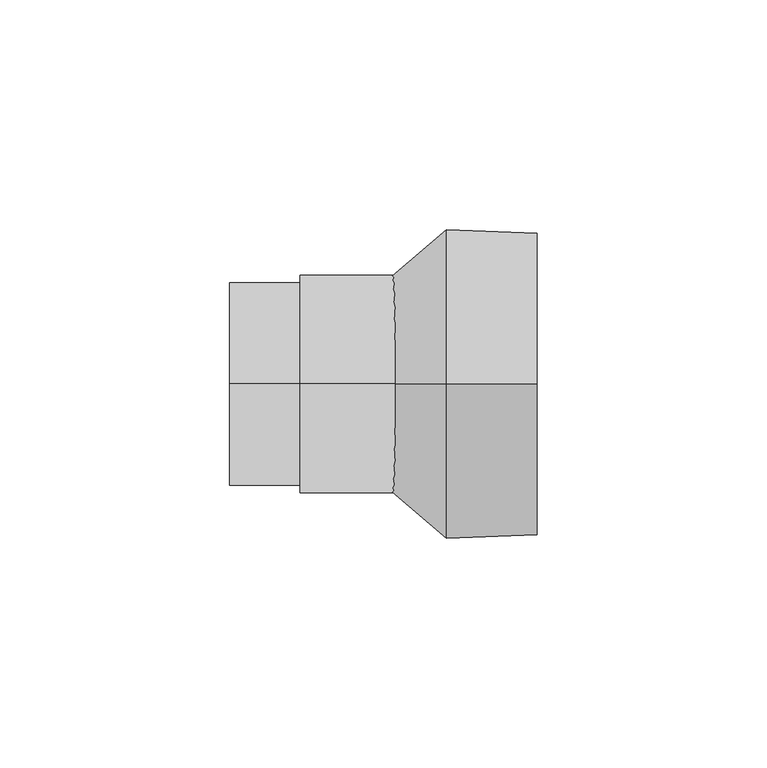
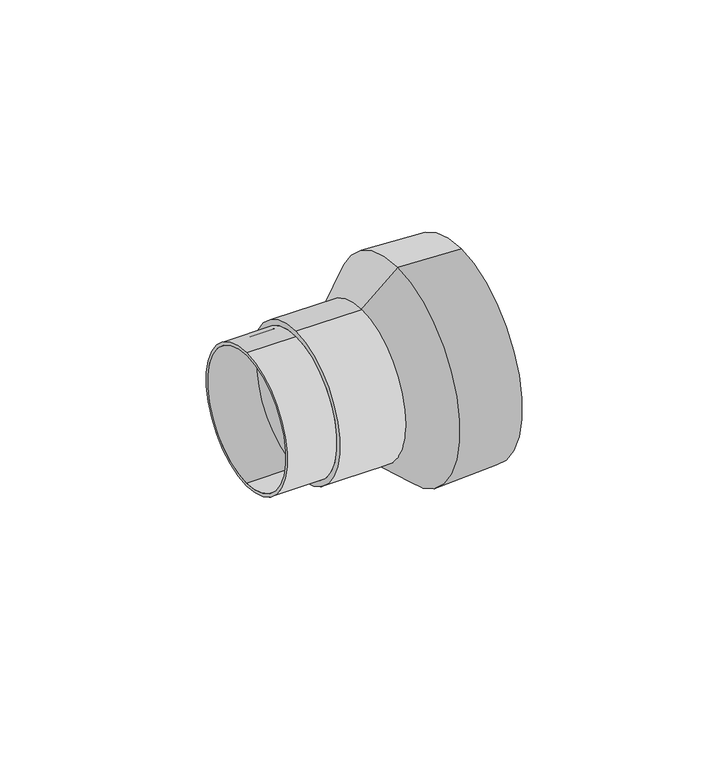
"""IFC4 building model written with IfcOpenShell, lengths in millimetres: valve geometry, Superdrain_Mini-Vent : Superdrain_ Mini-Vent DN 50."""

from ifc_helpers import new_model, si_unit, frame, origin, place, context, project, spatial, polyline, circle_curve, source, transform, mapped, element, save
from ifc_brep_helpers import plane_surface, cylinder_surface, revolved_surface, advanced_brep


def valve_471c44af(model_context):
    return source(origin(), model_context, "Body", "AdvancedBrep", [
        advanced_brep(
        [(36.0, 0.0, 23.7), (36.0, 0.0, -23.7), (15.4, 0.0, 23.7), (15.4, 0.0, -23.7), (15.4, 0.0, 22.0), (15.4, 0.0, -22.0), (15.4, 0.0, -21.0), (15.4, 0.0, 21.0), (0.0, 0.0, 22.0), (0.0, 0.0, -22.0), (0.0, 0.0, 21.0), (0.0, 0.0, -21.0)],
        [
            (0, 1, circle_curve(frame((36.0, 0.0, 0.0), z_axis=(1.0, 0.0, 0.0), x_axis=(0.0, 0.0, -1.0)), 23.7)),
            (1, 0, circle_curve(frame((36.0, 0.0, 0.0), z_axis=(1.0, 0.0, 0.0), x_axis=(0.0, 0.0, -1.0)), 23.7)),
            (2, 3, circle_curve(frame((15.4, 0.0, 0.0), z_axis=(-1.0, 0.0, 0.0), x_axis=(0.0, 0.0, -1.0)), 23.7)),
            (3, 2, circle_curve(frame((15.4, 0.0, 0.0), z_axis=(-1.0, 0.0, 0.0), x_axis=(0.0, 0.0, -1.0)), 23.7)),
            (4, 5, circle_curve(frame((15.4, 0.0, 0.0), z_axis=(1.0, 0.0, 0.0), x_axis=(0.0, 0.0, -1.0)), 22.0)),
            (5, 4, circle_curve(frame((15.4, 0.0, 0.0), z_axis=(1.0, 0.0, 0.0), x_axis=(0.0, 0.0, -1.0)), 22.0)),
            (6, 7, circle_curve(frame((15.4, 0.0, 0.0), z_axis=(-1.0, 0.0, 0.0), x_axis=(0.0, 0.0, -1.0)), 21.0)),
            (7, 6, circle_curve(frame((15.4, 0.0, 0.0), z_axis=(-1.0, 0.0, 0.0), x_axis=(0.0, 0.0, -1.0)), 21.0)),
            (0, 2),
            (3, 1),
            (8, 9, circle_curve(frame((0.0, 0.0, 0.0), z_axis=(-1.0, 0.0, 0.0), x_axis=(0.0, 0.0, -1.0)), 22.0)),
            (9, 8, circle_curve(frame((0.0, 0.0, 0.0), z_axis=(-1.0, 0.0, 0.0), x_axis=(0.0, 0.0, -1.0)), 22.0)),
            (10, 11, circle_curve(frame((0.0, 0.0, 0.0), z_axis=(1.0, 0.0, 0.0), x_axis=(0.0, 0.0, -1.0)), 21.0)),
            (11, 10, circle_curve(frame((0.0, 0.0, 0.0), z_axis=(1.0, 0.0, 0.0), x_axis=(0.0, 0.0, -1.0)), 21.0)),
            (9, 5),
            (4, 8),
            (10, 7),
            (6, 11),
        ],
        [
            plane_surface(frame((36.0, 0.0, -23.7), z_axis=(1.0, 0.0, 0.0), x_axis=(0.0, 1.0, 0.0))),
            plane_surface(frame((15.4, 0.0, -23.7), z_axis=(-1.0, 0.0, 0.0), x_axis=(0.0, -1.0, 0.0))),
            cylinder_surface(frame((15.4, 0.0, 0.0), z_axis=(1.0, 0.0, 0.0), x_axis=(0.0, 0.0, -1.0)), 23.7),
            plane_surface(frame((0.0, 0.0, -22.0), z_axis=(-1.0, 0.0, 0.0), x_axis=(0.0, -1.0, 0.0))),
            cylinder_surface(frame((0.0, 0.0, 0.0), z_axis=(1.0, 0.0, 0.0), x_axis=(0.0, 0.0, -1.0)), 22.0),
            revolved_surface(polyline([(0.0, 0.0, -21.0), (15.4, 0.0, -21.0)]), (0.0, 0.0, 0.0), (-1.0, 0.0, 0.0)),
        ],
        [
            (0, [[1, 2]]),
            (1, [[3, 4], [5, 6]]),
            (1, [[7, 8]]),
            (2, [[-1, 9, -4, 10]]),
            (2, [[-2, -10, -3, -9]]),
            (3, [[11, 12], [13, 14]]),
            (4, [[-12, 15, -5, 16]]),
            (4, [[-11, -16, -6, -15]]),
            (5, [[-13, 17, -7, 18]]),
            (5, [[-14, -18, -8, -17]]),
        ],
    ),
        advanced_brep(
        [(47.226201, 0.0, -33.7739385), (47.226201, 0.0, 33.7739385), (66.9870727, 0.0, 33.0112976), (66.9870727, 0.0, -33.0112976), (66.9870727, 0.0, 0.0), (35.4, 0.0, -23.5826524), (35.4, 0.0, 23.5826524), (35.4, 0.0, 0.0)],
        [
            (0, 1, circle_curve(frame((47.226201, 0.0, 0.0), z_axis=(1.0, 0.0, 0.0), x_axis=(0.0, 0.0, 1.0)), 33.7739385)),
            (1, 2),
            (2, 3, circle_curve(frame((66.9870727, 0.0, 0.0), z_axis=(-1.0, 0.0, 0.0), x_axis=(0.0, 0.0, 1.0)), 33.0112976)),
            (3, 0),
            (1, 0, circle_curve(frame((47.226201, 0.0, 0.0), z_axis=(1.0, 0.0, 0.0), x_axis=(0.0, 0.0, 1.0)), 33.7739385)),
            (3, 2, circle_curve(frame((66.9870727, 0.0, 0.0), z_axis=(-1.0, 0.0, 0.0), x_axis=(0.0, 0.0, 1.0)), 33.0112976)),
            (2, 4),
            (4, 3),
            (5, 6, circle_curve(frame((35.4, 0.0, 0.0), z_axis=(1.0, 0.0, 0.0), x_axis=(0.0, 0.0, 1.0)), 23.5826524)),
            (6, 1),
            (0, 5),
            (6, 5, circle_curve(frame((35.4, 0.0, 0.0), z_axis=(1.0, 0.0, 0.0), x_axis=(0.0, 0.0, 1.0)), 23.5826524)),
            (7, 6),
            (5, 7),
        ],
        [
            revolved_surface(polyline([(66.9870727, 0.0, 33.0112976), (47.226201, 0.0, 33.7739385)]), (68.8087367, 0.0, 0.0), (-1.0, 0.0, 0.0)),
            plane_surface(frame((66.9870727, 0.0, 0.0), z_axis=(1.0, 0.0, 0.0), x_axis=(0.0, 0.0, 1.0))),
            revolved_surface(polyline([(47.226201, 0.0, 33.7739385), (35.4, 0.0, 23.5826524)]), (68.8087367, 0.0, 0.0), (-1.0, 0.0, 0.0)),
            plane_surface(frame((35.4, 0.0, 0.0), z_axis=(-1.0, 0.0, 0.0), x_axis=(0.0, 0.0, 1.0))),
        ],
        [
            (0, [[1, 2, 3, 4]]),
            (0, [[5, -4, 6, -2]]),
            (1, [[-3, 7, 8]]),
            (1, [[-6, -8, -7]]),
            (2, [[9, 10, -1, 11]]),
            (2, [[12, -11, -5, -10]]),
            (3, [[13, -9, 14]]),
            (3, [[-14, -12, -13]]),
        ],
    ),
    ])


if __name__ == "__main__":
    model = new_model("IFC4")
    model_context = context("Model", 3, world=origin())
    ifc_project = project(units=[si_unit("LENGTHUNIT", "METRE", prefix="MILLI")], contexts=[model_context])
    site = spatial("IfcSite", under=ifc_project)
    building = spatial("IfcBuilding", under=site)
    placement = place(None, origin())
    valve_shape = valve_471c44af(model_context)
    element("IfcValve", 1, ObjectType="Superdrain_Mini-Vent : Superdrain_ Mini-Vent DN 50", at=placement, inside=building, context=model_context, shape_type="MappedRepresentation", body=[
        mapped(valve_shape, transform((0.0, 0.0, 0.0), x_axis=(1.0, 0.0, 0.0), y_axis=(0.0, 1.0, 0.0), z_axis=(0.0, 0.0, 1.0))),
    ])
    save(model, "model.ifc")
